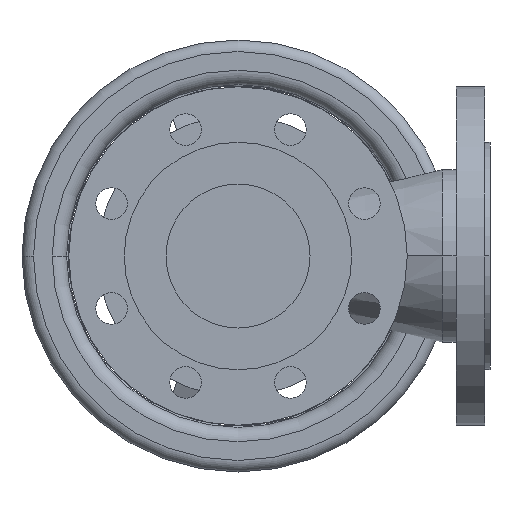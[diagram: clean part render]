
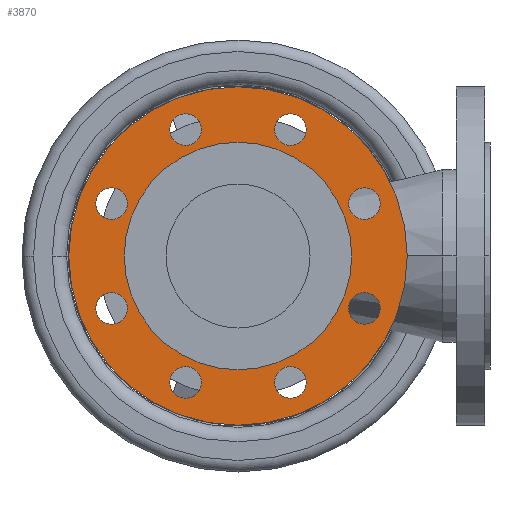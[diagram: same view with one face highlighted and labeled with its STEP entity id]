
A CAD part, front view. The second image highlights one B-rep face of the part: STEP entity #3870.
In plain terms, the highlighted planar face has unit normal (0, -1, 0).
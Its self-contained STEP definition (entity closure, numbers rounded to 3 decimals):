
#610=CARTESIAN_POINT('',(79.,3.5,0.));
#620=VERTEX_POINT('',#610);
#780=CARTESIAN_POINT('',(-79.,3.5,0.));
#790=VERTEX_POINT('',#780);
#820=CARTESIAN_POINT('',(0.,3.5,0.));
#830=DIRECTION('',(0.,-1.,0.));
#840=DIRECTION('',(-1.,0.,0.));
#850=AXIS2_PLACEMENT_3D('',#820,#830,#840);
#860=CIRCLE('',#850,79.);
#870=EDGE_CURVE('',#620,#790,#860,.T.);
#2420=CARTESIAN_POINT('',(0.,3.5,0.));
#2430=DIRECTION('',(0.,1.,0.));
#2440=DIRECTION('',(0.,0.,1.));
#2450=AXIS2_PLACEMENT_3D('',#2420,#2430,#2440);
#2460=PLANE('',#2450);
#2470=CARTESIAN_POINT('',(-87.769,3.5,36.355));
#2480=DIRECTION('',(0.,1.,0.));
#2490=DIRECTION('',(1.,0.,0.));
#2500=AXIS2_PLACEMENT_3D('',#2470,#2480,#2490);
#2510=CIRCLE('',#2500,11.);
#2520=CARTESIAN_POINT('',(-76.769,3.5,36.355));
#2530=VERTEX_POINT('',#2520);
#2540=CARTESIAN_POINT('',(-98.769,3.5,36.355));
#2550=VERTEX_POINT('',#2540);
#2560=EDGE_CURVE('',#2530,#2550,#2510,.T.);
#2570=ORIENTED_EDGE('',*,*,#2560,.T.);
#2580=EDGE_CURVE('',#2550,#2530,#2510,.T.);
#2590=ORIENTED_EDGE('',*,*,#2580,.T.);
#2600=EDGE_LOOP('',(#2590,#2570));
#2610=FACE_BOUND('',#2600,.T.);
#2620=CARTESIAN_POINT('',(-87.769,3.5,-36.355));
#2630=DIRECTION('',(0.,1.,0.));
#2640=DIRECTION('',(1.,0.,0.));
#2650=AXIS2_PLACEMENT_3D('',#2620,#2630,#2640);
#2660=CIRCLE('',#2650,11.);
#2670=CARTESIAN_POINT('',(-98.769,3.5,-36.355));
#2680=VERTEX_POINT('',#2670);
#2690=CARTESIAN_POINT('',(-76.769,3.5,-36.355));
#2700=VERTEX_POINT('',#2690);
#2710=EDGE_CURVE('',#2680,#2700,#2660,.T.);
#2720=ORIENTED_EDGE('',*,*,#2710,.T.);
#2730=EDGE_CURVE('',#2700,#2680,#2660,.T.);
#2740=ORIENTED_EDGE('',*,*,#2730,.T.);
#2750=EDGE_LOOP('',(#2740,#2720));
#2760=FACE_BOUND('',#2750,.T.);
#2770=CARTESIAN_POINT('',(-36.355,3.5,87.769));
#2780=DIRECTION('',(0.,1.,0.));
#2790=DIRECTION('',(1.,0.,0.));
#2800=AXIS2_PLACEMENT_3D('',#2770,#2780,#2790);
#2810=CIRCLE('',#2800,11.);
#2820=CARTESIAN_POINT('',(-47.355,3.5,87.769));
#2830=VERTEX_POINT('',#2820);
#2840=CARTESIAN_POINT('',(-25.355,3.5,87.769));
#2850=VERTEX_POINT('',#2840);
#2860=EDGE_CURVE('',#2830,#2850,#2810,.T.);
#2870=ORIENTED_EDGE('',*,*,#2860,.T.);
#2880=EDGE_CURVE('',#2850,#2830,#2810,.T.);
#2890=ORIENTED_EDGE('',*,*,#2880,.T.);
#2900=EDGE_LOOP('',(#2890,#2870));
#2910=FACE_BOUND('',#2900,.T.);
#2920=CARTESIAN_POINT('',(-36.355,3.5,-87.769));
#2930=DIRECTION('',(0.,1.,0.));
#2940=DIRECTION('',(1.,0.,0.));
#2950=AXIS2_PLACEMENT_3D('',#2920,#2930,#2940);
#2960=CIRCLE('',#2950,11.);
#2970=CARTESIAN_POINT('',(-25.355,3.5,-87.769));
#2980=VERTEX_POINT('',#2970);
#2990=CARTESIAN_POINT('',(-47.355,3.5,-87.769));
#3000=VERTEX_POINT('',#2990);
#3010=EDGE_CURVE('',#2980,#3000,#2960,.T.);
#3020=ORIENTED_EDGE('',*,*,#3010,.T.);
#3030=EDGE_CURVE('',#3000,#2980,#2960,.T.);
#3040=ORIENTED_EDGE('',*,*,#3030,.T.);
#3050=EDGE_LOOP('',(#3040,#3020));
#3060=FACE_BOUND('',#3050,.T.);
#3070=CARTESIAN_POINT('',(36.355,3.5,87.769));
#3080=DIRECTION('',(0.,1.,0.));
#3090=DIRECTION('',(1.,0.,0.));
#3100=AXIS2_PLACEMENT_3D('',#3070,#3080,#3090);
#3110=CIRCLE('',#3100,11.);
#3120=CARTESIAN_POINT('',(25.355,3.5,87.769));
#3130=VERTEX_POINT('',#3120);
#3140=CARTESIAN_POINT('',(47.355,3.5,87.769));
#3150=VERTEX_POINT('',#3140);
#3160=EDGE_CURVE('',#3130,#3150,#3110,.T.);
#3170=ORIENTED_EDGE('',*,*,#3160,.T.);
#3180=EDGE_CURVE('',#3150,#3130,#3110,.T.);
#3190=ORIENTED_EDGE('',*,*,#3180,.T.);
#3200=EDGE_LOOP('',(#3190,#3170));
#3210=FACE_BOUND('',#3200,.T.);
#3220=CARTESIAN_POINT('',(36.355,3.5,-87.769));
#3230=DIRECTION('',(0.,1.,0.));
#3240=DIRECTION('',(1.,0.,0.));
#3250=AXIS2_PLACEMENT_3D('',#3220,#3230,#3240);
#3260=CIRCLE('',#3250,11.);
#3270=CARTESIAN_POINT('',(47.355,3.5,-87.769));
#3280=VERTEX_POINT('',#3270);
#3290=CARTESIAN_POINT('',(25.355,3.5,-87.769));
#3300=VERTEX_POINT('',#3290);
#3310=EDGE_CURVE('',#3280,#3300,#3260,.T.);
#3320=ORIENTED_EDGE('',*,*,#3310,.T.);
#3330=EDGE_CURVE('',#3300,#3280,#3260,.T.);
#3340=ORIENTED_EDGE('',*,*,#3330,.T.);
#3350=EDGE_LOOP('',(#3340,#3320));
#3360=FACE_BOUND('',#3350,.T.);
#3370=CARTESIAN_POINT('',(87.769,3.5,36.355));
#3380=DIRECTION('',(0.,1.,0.));
#3390=DIRECTION('',(1.,0.,0.));
#3400=AXIS2_PLACEMENT_3D('',#3370,#3380,#3390);
#3410=CIRCLE('',#3400,11.);
#3420=CARTESIAN_POINT('',(76.769,3.5,36.355));
#3430=VERTEX_POINT('',#3420);
#3440=CARTESIAN_POINT('',(98.769,3.5,36.355));
#3450=VERTEX_POINT('',#3440);
#3460=EDGE_CURVE('',#3430,#3450,#3410,.T.);
#3470=ORIENTED_EDGE('',*,*,#3460,.T.);
#3480=EDGE_CURVE('',#3450,#3430,#3410,.T.);
#3490=ORIENTED_EDGE('',*,*,#3480,.T.);
#3500=EDGE_LOOP('',(#3490,#3470));
#3510=FACE_BOUND('',#3500,.T.);
#3520=CARTESIAN_POINT('',(87.769,3.5,-36.355));
#3530=DIRECTION('',(0.,1.,0.));
#3540=DIRECTION('',(1.,0.,0.));
#3550=AXIS2_PLACEMENT_3D('',#3520,#3530,#3540);
#3560=CIRCLE('',#3550,11.);
#3570=CARTESIAN_POINT('',(98.769,3.5,-36.355));
#3580=VERTEX_POINT('',#3570);
#3590=CARTESIAN_POINT('',(76.769,3.5,-36.355));
#3600=VERTEX_POINT('',#3590);
#3610=EDGE_CURVE('',#3580,#3600,#3560,.T.);
#3620=ORIENTED_EDGE('',*,*,#3610,.T.);
#3630=EDGE_CURVE('',#3600,#3580,#3560,.T.);
#3640=ORIENTED_EDGE('',*,*,#3630,.T.);
#3650=EDGE_LOOP('',(#3640,#3620));
#3660=FACE_BOUND('',#3650,.T.);
#3670=CARTESIAN_POINT('',(0.,3.5,0.));
#3680=DIRECTION('',(0.,1.,0.));
#3690=DIRECTION('',(1.,0.,0.));
#3700=AXIS2_PLACEMENT_3D('',#3670,#3680,#3690);
#3710=CIRCLE('',#3700,117.5);
#3720=CARTESIAN_POINT('',(117.5,3.5,0.));
#3730=VERTEX_POINT('',#3720);
#3740=CARTESIAN_POINT('',(-117.5,3.5,0.));
#3750=VERTEX_POINT('',#3740);
#3760=EDGE_CURVE('',#3730,#3750,#3710,.T.);
#3770=ORIENTED_EDGE('',*,*,#3760,.F.);
#3780=EDGE_CURVE('',#3750,#3730,#3710,.T.);
#3790=ORIENTED_EDGE('',*,*,#3780,.F.);
#3800=EDGE_LOOP('',(#3790,#3770));
#3810=FACE_OUTER_BOUND('',#3800,.T.);
#3820=EDGE_CURVE('',#790,#620,#860,.T.);
#3830=ORIENTED_EDGE('',*,*,#3820,.F.);
#3840=ORIENTED_EDGE('',*,*,#870,.F.);
#3850=EDGE_LOOP('',(#3840,#3830));
#3860=FACE_BOUND('',#3850,.T.);
#3870=ADVANCED_FACE('',(#2610,#2760,#2910,#3060,#3210,#3360,#3510,#3660,
#3810,#3860),#2460,.F.);
